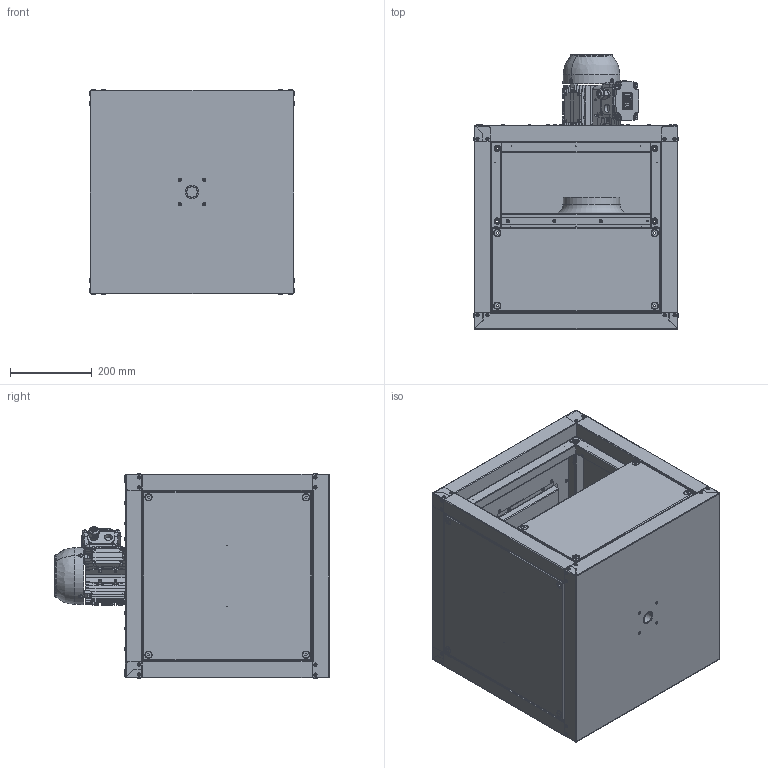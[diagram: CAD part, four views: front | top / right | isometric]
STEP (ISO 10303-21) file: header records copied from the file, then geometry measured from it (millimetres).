
FILE_DESCRIPTION (( 'STEP AP203' ), '1' );
FILE_NAME ('146661-00_MPC225D2F4TI30_step.step', '2018-10-09T09:41:01', ( '' ), ( '' ), 'SwSTEP 2.0', 'SolidWorks 2017', '' );
FILE_SCHEMA (( 'CONFIG_CONTROL_DESIGN' ));
Products named in the file (1): 146661-00_MPC225D2F4TI30_step
Bounding box: 502.6 x 673.1 x 502.6 mm (x, y, z)
Surface area: 3641088.1 mm2 (no closed solid volume)
Topology: 0 solids, 242 shells, 2081 faces, 8619 edges, 6555 vertices
Faces by surface type: plane 991, cylinder 629, torus 266, bspline 112, cone 83
Entity records: 104913 total; most frequent: CARTESIAN_POINT 35759, DIRECTION 14550, ORIENTED_EDGE 11688, EDGE_CURVE 8619, VERTEX_POINT 6555, AXIS2_PLACEMENT_3D 4871, LINE 4808, VECTOR 4808
